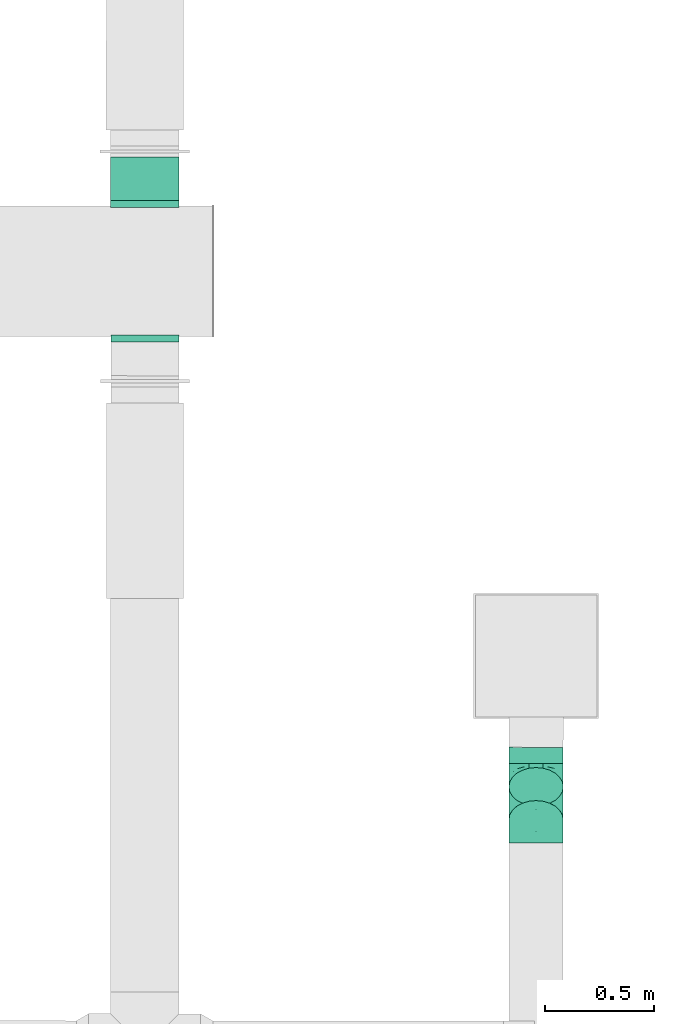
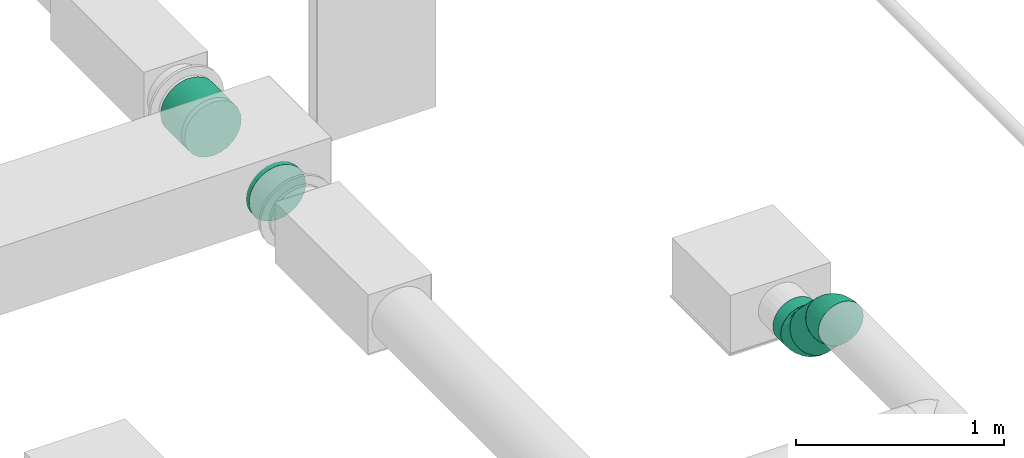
# One storey, part 31 of 63: 4 flow fittings, 3 flow segments.
"""IFC2X3 building model written with IfcOpenShell, lengths in millimetres."""

from ifc_helpers import new_model, entity, si_unit, converted_unit, derived_unit, direction, frame, origin_with_axes, origin_2d_with_axis, place, context, subcontext, project, spatial, hollow_circle, extrude, open_shell, surface_model, source, transform, mapped, type_object, element, save


model = new_model("IFC2X3")

# Units and contexts
model_context = context("Model", 3, precision=0.01, world=frame((0.0, 4.29681676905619e-09, 0.0)), true_north=direction((4.01073788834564e-13, 1.0)))
plan_context = context("Plan", 3, precision=0.01, world=frame((0.0, 4.29681676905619e-09, 0.0)), true_north=direction((4.01073788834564e-13, 1.0)))
body_context = subcontext(model_context, "Body", "Model", "MODEL_VIEW")
ifc_project = project(units=[converted_unit("PLANEANGLEUNIT", "DEGREE", entity("IfcPositiveLengthMeasure", 0.0174532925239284), si_unit("PLANEANGLEUNIT", "RADIAN"), dimensions=[0, 0, 0, 0, 0, 0, 0]), si_unit("AREAUNIT", "SQUARE_METRE"), si_unit("LENGTHUNIT", "METRE", prefix="MILLI"), si_unit("MASSUNIT", "GRAM", prefix="KILO"), si_unit("POWERUNIT", "WATT"), si_unit("PRESSUREUNIT", "PASCAL"), si_unit("FORCEUNIT", "NEWTON", prefix="KILO"), si_unit("ELECTRICVOLTAGEUNIT", "VOLT"), si_unit("ELECTRICCURRENTUNIT", "AMPERE"), si_unit("THERMODYNAMICTEMPERATUREUNIT", "DEGREE_CELSIUS"), si_unit("TIMEUNIT", "SECOND"), si_unit("VOLUMEUNIT", "CUBIC_METRE"), derived_unit("LINEARVELOCITYUNIT", [(si_unit("LENGTHUNIT", "METRE"), 1), (si_unit("TIMEUNIT", "SECOND"), -1)]), derived_unit("VOLUMETRICFLOWRATEUNIT", [(si_unit("VOLUMEUNIT", "CUBIC_METRE"), 1), (si_unit("TIMEUNIT", "SECOND"), -1)]), derived_unit("THERMALTRANSMITTANCEUNIT", [(si_unit("POWERUNIT", "WATT"), 1), (si_unit("THERMODYNAMICTEMPERATUREUNIT", "KELVIN"), -1), (si_unit("AREAUNIT", "SQUARE_METRE"), -1)]), derived_unit("SOUNDPRESSUREUNIT", [(si_unit("PRESSUREUNIT", "PASCAL"), 1)])], contexts=[model_context, plan_context])

# Site, building, storey
site_placement = place(None, frame((0.0, -4.29681676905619e-09, 0.0), z_axis=(0.0, 0.0, 1.0), x_axis=(1.0, 0.0, 0.0)))
site = spatial("IfcSite", under=ifc_project, at=site_placement, CompositionType="ELEMENT")
building_placement = place(site_placement, frame((0.0, 4.29681676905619e-09, 0.0), z_axis=(0.0, 0.0, 1.0), x_axis=(1.0, 0.0, 0.0)))
building = spatial("IfcBuilding", under=site, at=building_placement, Name="mc-building", CompositionType="ELEMENT")
storey_placement = place(building_placement, frame((0.0, 0.0, 210900.0), z_axis=(0.0, 0.0, 1.0), x_axis=(1.0, 0.0, 0.0)))
storey = spatial("IfcBuildingStorey", under=building, at=storey_placement, Name="Nivå F", CompositionType="ELEMENT", Elevation=210900.0)

# Flow fittings
duct_fitting_type_1 = type_object("IfcDuctFittingType", Name="magicirc_elbow_short_001", PredefinedType="BEND")
shared_shape_1 = source(origin_with_axes(), body_context, "Body", "SurfaceModel", [
    surface_model("IfcShellBasedSurfaceModel", [(-62.13204, 0.0, -125.0), (-62.13204, -32.35238, -120.74073), (-62.13204, 32.35238, -120.74073), (-62.13204, 62.5, -108.25318), (-62.13204, 88.38835, -88.38835), (-62.13204, 108.25318, -62.5), (-62.13204, 120.74073, -32.35238), (-62.13204, -62.5, -108.25318), (-62.13204, -88.38835, -88.38835), (-62.13204, -125.0, 0.0), (-62.13204, -108.25318, -62.5), (-62.13204, -120.74073, -32.35238), (-62.13204, 125.0, 0.0), (-62.13204, -120.74073, 32.35238), (-62.13204, 120.74073, 32.35238), (-62.13204, 108.25318, 62.5), (-62.13204, 32.35238, 120.74073), (-62.13204, 62.5, 108.25318), (-62.13204, 88.38835, 88.38835), (-62.13204, -88.38835, 88.38835), (-62.13204, -108.25318, 62.5), (-62.13204, -32.35238, 120.74073), (-62.13204, 0.0, 125.0), (-62.13204, -62.5, 108.25318), (-32.61257, 120.48054, -62.5), (-41.44261, 129.31057, -32.35238), (-44.45436, 132.32233, 0.0), (-41.44261, 129.31057, 32.35238), (-32.61257, 120.48054, 62.5), (-39.32094, -100.77129, 72.52866), (-25.3983, -115.58366, 40.92131), (-9.38975, -99.61313, 67.6303), (-40.71594, 99.20513, 81.38635), (-18.56602, 106.43398, 88.38835), (6.93461, -16.74165, 121.22697), (-29.92798, -19.88945, 122.8817), (-17.69423, -50.99343, 111.83063), (-28.63512, 12.8945, 124.68547), (-43.55871, 45.16564, 117.17454), (-19.1971, 46.34588, 119.14586), (20.11216, -107.05726, 35.36285), (37.22525, -89.79474, 60.1728), (-42.64489, 65.81413, 107.6176), (18.18237, -43.89615, 109.72868), (-48.14682, 116.23669, 52.46898), (11.13029, 29.36587, 124.68547), (-8.4822, -119.71595, 0.0), (17.31186, -111.89141, 0.0), (-27.44697, 77.92943, 103.54984), (-1.13628, 62.73759, 117.17454), (-0.26019, 88.12816, 108.25318), (29.58221, -71.41779, 87.09722), (2.27359, -83.55864, 84.32151), (46.20365, -49.09439, 98.73245), (43.10591, -104.06687, 0.0), (-28.63512, 12.89449, -124.68547), (-29.92797, -19.88945, -122.8817), (11.13029, 29.36586, -124.68547), (-19.1971, 46.34588, -119.14586), (-43.55871, 45.16564, -117.17454), (-35.69649, 74.51237, -103.54983), (-25.3983, -115.58366, -40.92131), (-48.14682, 116.23669, -52.46898), (-39.32094, -100.77129, -72.52866), (-16.38313, 76.69211, -107.6176), (-18.56602, 106.43398, -88.38835), (-0.26019, 88.12816, -108.25318), (-17.69423, -50.99343, -111.83063), (6.93461, -16.74165, -121.22697), (-1.13628, 62.73759, -117.17454), (48.5695, -23.54609, -111.83063), (35.22623, 7.0983, -122.8817), (-9.38975, -99.61313, -67.63031), (2.04406, -67.38589, -98.73245), (29.58221, -71.41778, -87.09723), (43.93399, 43.934, -125.0), (106.43399, -18.56599, 88.38835), (132.32235, -44.45434, 0.0), (21.05739, 66.81058, -120.74073), (88.12817, -0.26017, 108.25318), (66.81057, 21.05741, -120.74073), (106.43399, -18.56599, -88.38835), (88.12817, -0.26017, -108.25318), (129.31058, -41.44258, -32.35238), (120.48055, -32.61255, -62.5), (21.05739, 66.81058, 120.74073), (43.93399, 43.934, 125.0), (129.31058, -41.44258, 32.35238), (120.48055, -32.61255, 62.5), (66.81057, 21.05741, 120.74073), (-31.08246, -121.94188, 0.0), (35.22622, 7.09831, 122.8817), (-25.98217, -78.69805, 94.74512), (-3.43913, -67.17105, 100.02812), (77.07669, -63.79755, 67.6303), (61.9235, -89.5906, 35.66991), (-52.56496, 126.90301, 0.0), (99.68931, -63.77067, 40.92131), (48.5695, -23.54609, 111.83062), (99.06018, -43.45194, 72.52866), (74.0201, -37.27574, 94.74512), (108.20455, -64.2473, 0.0), (90.64979, -78.65413, 0.0), (66.87785, -91.36049, 0.0), (19.56361, -107.13664, -35.66991), (-41.35812, 98.93914, -81.38635), (-25.98217, -78.69805, -94.74512), (61.47949, -89.92235, -35.36285), (18.18239, -43.89616, -109.72867), (57.47721, -60.69254, -84.32152), (74.02009, -37.27574, -94.74513), (77.07669, -63.79755, -67.6303), (37.17223, -89.81669, -60.17279), (99.68931, -63.77066, -40.92131), (99.06018, -43.45194, -72.52866), (49.92893, -45.06527, -100.02812)], [open_shell([[[0, 1, 2]], [[3, 2, 4]], [[1, 5, 2]], [[4, 2, 5]], [[5, 1, 6]], [[7, 8, 1]], [[9, 1, 8]], [[10, 11, 8]], [[9, 8, 11]], [[9, 6, 1]], [[9, 12, 6]], [[12, 13, 14]], [[15, 14, 16]], [[16, 17, 18]], [[15, 16, 18]], [[16, 14, 19]], [[20, 19, 13]], [[19, 14, 13]], [[21, 22, 23]], [[19, 23, 22]], [[19, 22, 16]], [[9, 13, 12]], [[24, 25, 26]], [[26, 27, 28]], [[29, 30, 31]], [[32, 33, 28]], [[30, 20, 13]], [[34, 35, 36]], [[21, 35, 22]], [[21, 23, 36]], [[16, 22, 37]], [[38, 37, 39]], [[31, 40, 41]], [[42, 17, 38]], [[38, 17, 16]], [[43, 34, 36]], [[35, 37, 22]], [[14, 15, 44]], [[42, 32, 18]], [[29, 19, 20]], [[40, 31, 30]], [[37, 45, 39]], [[45, 37, 34]], [[40, 46, 47]], [[42, 18, 17]], [[33, 32, 48]], [[27, 44, 28]], [[48, 39, 49]], [[33, 48, 50]], [[44, 32, 28]], [[18, 32, 15]], [[36, 35, 21]], [[37, 35, 34]], [[41, 51, 52]], [[14, 44, 27]], [[32, 44, 15]], [[37, 38, 16]], [[42, 39, 48]], [[39, 42, 38]], [[42, 48, 32]], [[48, 49, 50]], [[45, 49, 39]], [[30, 29, 20]], [[53, 43, 51]], [[46, 40, 30]], [[47, 54, 40]], [[41, 52, 31]], [[0, 2, 55]], [[56, 1, 0]], [[57, 55, 58]], [[59, 60, 58]], [[10, 61, 11]], [[3, 4, 60]], [[62, 6, 25]], [[61, 10, 63]], [[64, 65, 66]], [[1, 56, 67]], [[8, 63, 10]], [[7, 1, 67]], [[56, 55, 68]], [[25, 24, 62]], [[69, 64, 66]], [[2, 3, 59]], [[59, 55, 2]], [[69, 57, 58]], [[70, 68, 71]], [[55, 57, 68]], [[55, 56, 0]], [[67, 56, 68]], [[57, 71, 68]], [[6, 62, 5]], [[60, 59, 3]], [[55, 59, 58]], [[64, 58, 60]], [[58, 64, 69]], [[61, 63, 72]], [[72, 73, 74]], [[75, 76, 77]], [[66, 26, 78]], [[78, 79, 75]], [[24, 66, 65]], [[66, 24, 26]], [[80, 81, 82]], [[80, 75, 81]], [[81, 83, 84]], [[83, 81, 77]], [[75, 77, 81]], [[26, 28, 50]], [[50, 85, 26]], [[50, 28, 33]], [[26, 85, 86]], [[87, 76, 88]], [[77, 76, 87]], [[79, 86, 89]], [[76, 75, 79]], [[86, 79, 26]], [[78, 26, 79]], [[90, 46, 30]], [[91, 45, 34]], [[23, 92, 36]], [[52, 93, 92]], [[94, 41, 95]], [[23, 19, 92]], [[96, 14, 27]], [[40, 95, 41]], [[96, 12, 14]], [[94, 95, 97]], [[40, 54, 95]], [[98, 89, 91]], [[99, 88, 76]], [[89, 98, 79]], [[88, 99, 97]], [[88, 97, 87]], [[98, 100, 79]], [[53, 94, 100]], [[97, 101, 87]], [[85, 50, 49]], [[41, 94, 51]], [[30, 13, 90]], [[26, 96, 27]], [[95, 102, 97]], [[95, 54, 103]], [[86, 91, 89]], [[86, 85, 45]], [[45, 85, 49]], [[34, 43, 98]], [[29, 92, 19]], [[79, 100, 76]], [[52, 92, 31]], [[95, 103, 102]], [[53, 100, 98]], [[99, 100, 94]], [[45, 91, 86]], [[98, 91, 34]], [[13, 9, 90]], [[101, 97, 102]], [[101, 77, 87]], [[92, 29, 31]], [[100, 99, 76]], [[97, 99, 94]], [[93, 36, 92]], [[51, 43, 93]], [[51, 93, 52]], [[43, 36, 93]], [[43, 53, 98]], [[94, 53, 51]], [[104, 46, 61]], [[78, 75, 57]], [[4, 105, 60]], [[73, 72, 106]], [[80, 82, 70]], [[61, 90, 11]], [[83, 77, 101]], [[106, 7, 67]], [[107, 102, 103]], [[104, 54, 47]], [[72, 104, 61]], [[106, 8, 7]], [[68, 108, 67]], [[6, 12, 96]], [[109, 110, 111]], [[96, 26, 25]], [[112, 72, 74]], [[113, 83, 101]], [[82, 81, 110]], [[113, 84, 83]], [[64, 105, 65]], [[4, 5, 105]], [[114, 81, 84]], [[110, 109, 115]], [[70, 82, 110]], [[66, 78, 69]], [[75, 80, 71]], [[111, 114, 113]], [[108, 68, 70]], [[113, 101, 102]], [[107, 104, 112]], [[107, 111, 113]], [[111, 107, 112]], [[71, 57, 75]], [[104, 47, 46]], [[96, 25, 6]], [[114, 110, 81]], [[107, 54, 104]], [[73, 106, 67]], [[63, 106, 72]], [[62, 105, 5]], [[65, 105, 24]], [[70, 71, 80]], [[90, 61, 46]], [[90, 9, 11]], [[72, 112, 104]], [[112, 74, 109]], [[105, 62, 24]], [[57, 69, 78]], [[64, 60, 105]], [[113, 114, 84]], [[110, 114, 111]], [[106, 63, 8]], [[115, 70, 110]], [[73, 108, 74]], [[102, 107, 113]], [[103, 54, 107]], [[112, 109, 111]], [[74, 108, 115]], [[74, 115, 109]], [[108, 70, 115]], [[108, 73, 67]]])]),
])
flow_fitting_1_placement = place(storey_placement, frame((534105.55187, 453840.20991, 3960.01264), z_axis=(-0.999999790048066, 0.000647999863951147, 0.0), x_axis=(-0.000647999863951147, -0.999999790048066, 0.0)))
element("IfcFlowFitting", 1, at=flow_fitting_1_placement, inside=storey, type_object=duct_fitting_type_1, Name="magicirc_elbow_short_001", context=body_context, shape_type="MappedRepresentation", body=[
    mapped(shared_shape_1, transform((0.0, 0.0, 0.0), scale=1.0)),
])
shared_shape_2 = source(origin_with_axes(), body_context, "Body", "SurfaceModel", [
    surface_model("IfcShellBasedSurfaceModel", [(-62.13204, 0.0, -125.0), (-62.13204, -32.35238, -120.74073), (-62.13204, 32.35238, -120.74073), (-62.13204, 62.5, -108.25318), (-62.13204, 88.38835, -88.38835), (-62.13204, 108.25318, -62.5), (-62.13204, 120.74073, -32.35238), (-62.13204, -62.5, -108.25318), (-62.13204, -88.38835, -88.38835), (-62.13204, -125.0, 0.0), (-62.13204, -108.25318, -62.5), (-62.13204, -120.74073, -32.35238), (-62.13204, 125.0, 0.0), (-62.13204, -120.74073, 32.35238), (-62.13204, 120.74073, 32.35238), (-62.13204, 108.25318, 62.5), (-62.13204, 32.35238, 120.74073), (-62.13204, 62.5, 108.25318), (-62.13204, 88.38835, 88.38835), (-62.13204, -88.38835, 88.38835), (-62.13204, -108.25318, 62.5), (-62.13204, -32.35238, 120.74073), (-62.13204, 0.0, 125.0), (-62.13204, -62.5, 108.25318), (-32.61257, 120.48054, -62.5), (-41.44261, 129.31057, -32.35238), (-44.45436, 132.32233, 0.0), (-41.44261, 129.31057, 32.35238), (-32.61257, 120.48054, 62.5), (-39.32094, -100.77129, 72.52866), (-25.3983, -115.58366, 40.92131), (-9.38975, -99.61313, 67.6303), (-40.71594, 99.20513, 81.38635), (-18.56602, 106.43398, 88.38835), (6.93461, -16.74165, 121.22697), (-29.92798, -19.88945, 122.8817), (-17.69423, -50.99343, 111.83063), (-28.63512, 12.8945, 124.68547), (-43.55871, 45.16564, 117.17454), (-19.1971, 46.34588, 119.14586), (20.11216, -107.05726, 35.36285), (37.22525, -89.79474, 60.1728), (-42.64489, 65.81413, 107.6176), (18.18237, -43.89615, 109.72868), (-48.14682, 116.23669, 52.46898), (11.13029, 29.36587, 124.68547), (-8.4822, -119.71595, 0.0), (17.31186, -111.89141, 0.0), (-27.44697, 77.92943, 103.54984), (-1.13628, 62.73759, 117.17454), (-0.26019, 88.12816, 108.25318), (29.58221, -71.41779, 87.09722), (2.27359, -83.55864, 84.32151), (46.20365, -49.09439, 98.73245), (43.10591, -104.06687, 0.0), (-28.63512, 12.89449, -124.68547), (-29.92797, -19.88945, -122.8817), (11.13029, 29.36586, -124.68547), (-19.1971, 46.34588, -119.14586), (-43.55871, 45.16564, -117.17454), (-35.69649, 74.51237, -103.54983), (-25.3983, -115.58366, -40.92131), (-48.14682, 116.23669, -52.46898), (-39.32094, -100.77129, -72.52866), (-16.38313, 76.69211, -107.6176), (-18.56602, 106.43398, -88.38835), (-0.26019, 88.12816, -108.25318), (-17.69423, -50.99343, -111.83063), (6.93461, -16.74165, -121.22697), (-1.13628, 62.73759, -117.17454), (48.5695, -23.54609, -111.83063), (35.22623, 7.0983, -122.8817), (-9.38975, -99.61313, -67.63031), (2.04406, -67.38589, -98.73245), (29.58221, -71.41778, -87.09723), (43.93399, 43.934, -125.0), (106.43399, -18.56599, 88.38835), (132.32235, -44.45434, 0.0), (21.05739, 66.81058, -120.74073), (88.12817, -0.26017, 108.25318), (66.81057, 21.05741, -120.74073), (106.43399, -18.56599, -88.38835), (88.12817, -0.26017, -108.25318), (129.31058, -41.44258, -32.35238), (120.48055, -32.61255, -62.5), (21.05739, 66.81058, 120.74073), (43.93399, 43.934, 125.0), (129.31058, -41.44258, 32.35238), (120.48055, -32.61255, 62.5), (66.81057, 21.05741, 120.74073), (-31.08246, -121.94188, 0.0), (35.22622, 7.09831, 122.8817), (77.07669, -63.79755, 67.6303), (61.9235, -89.5906, 35.66991), (-52.56496, 126.90301, 0.0), (99.68931, -63.77067, 40.92131), (48.5695, -23.54609, 111.83062), (99.06018, -43.45194, 72.52866), (74.0201, -37.27574, 94.74512), (108.20455, -64.2473, 0.0), (90.64979, -78.65413, 0.0), (66.87785, -91.36049, 0.0), (-3.43913, -67.17105, 100.02812), (19.56361, -107.13664, -35.66991), (-41.35812, 98.93914, -81.38635), (-25.98217, -78.69805, -94.74512), (61.47949, -89.92235, -35.36285), (18.18239, -43.89616, -109.72867), (57.47721, -60.69254, -84.32152), (74.02009, -37.27574, -94.74513), (77.07669, -63.79755, -67.6303), (37.17223, -89.81669, -60.17279), (99.68931, -63.77066, -40.92131), (99.06018, -43.45194, -72.52866), (49.92893, -45.06527, -100.02812), (-25.98217, -78.69805, 94.74512)], [open_shell([[[0, 1, 2]], [[3, 2, 4]], [[1, 5, 2]], [[4, 2, 5]], [[5, 1, 6]], [[7, 8, 1]], [[9, 1, 8]], [[10, 11, 8]], [[9, 8, 11]], [[9, 6, 1]], [[9, 12, 6]], [[12, 13, 14]], [[15, 14, 16]], [[16, 17, 18]], [[15, 16, 18]], [[16, 14, 19]], [[20, 19, 13]], [[19, 14, 13]], [[21, 22, 23]], [[19, 23, 22]], [[19, 22, 16]], [[9, 13, 12]], [[24, 25, 26]], [[26, 27, 28]], [[29, 30, 31]], [[32, 33, 28]], [[30, 20, 13]], [[34, 35, 36]], [[21, 35, 22]], [[21, 23, 36]], [[16, 22, 37]], [[38, 37, 39]], [[31, 40, 41]], [[42, 17, 38]], [[38, 17, 16]], [[43, 34, 36]], [[35, 37, 22]], [[14, 15, 44]], [[42, 32, 18]], [[29, 19, 20]], [[40, 31, 30]], [[37, 45, 39]], [[45, 37, 34]], [[40, 46, 47]], [[42, 18, 17]], [[33, 32, 48]], [[27, 44, 28]], [[48, 39, 49]], [[33, 48, 50]], [[44, 32, 28]], [[18, 32, 15]], [[36, 35, 21]], [[37, 35, 34]], [[41, 51, 52]], [[14, 44, 27]], [[32, 44, 15]], [[37, 38, 16]], [[42, 39, 48]], [[39, 42, 38]], [[42, 48, 32]], [[48, 49, 50]], [[45, 49, 39]], [[30, 29, 20]], [[53, 43, 51]], [[46, 40, 30]], [[47, 54, 40]], [[41, 52, 31]], [[0, 2, 55]], [[56, 1, 0]], [[57, 55, 58]], [[59, 60, 58]], [[10, 61, 11]], [[3, 4, 60]], [[62, 6, 25]], [[61, 10, 63]], [[64, 65, 66]], [[1, 56, 67]], [[8, 63, 10]], [[7, 1, 67]], [[56, 55, 68]], [[25, 24, 62]], [[69, 64, 66]], [[2, 3, 59]], [[59, 55, 2]], [[69, 57, 58]], [[70, 68, 71]], [[55, 57, 68]], [[55, 56, 0]], [[67, 56, 68]], [[57, 71, 68]], [[6, 62, 5]], [[60, 59, 3]], [[55, 59, 58]], [[64, 58, 60]], [[58, 64, 69]], [[61, 63, 72]], [[72, 73, 74]], [[75, 76, 77]], [[66, 26, 78]], [[78, 79, 75]], [[24, 66, 65]], [[66, 24, 26]], [[80, 81, 82]], [[80, 75, 81]], [[81, 83, 84]], [[83, 81, 77]], [[75, 77, 81]], [[26, 28, 50]], [[50, 85, 26]], [[50, 28, 33]], [[26, 85, 86]], [[87, 76, 88]], [[77, 76, 87]], [[79, 86, 89]], [[76, 75, 79]], [[86, 79, 26]], [[78, 26, 79]], [[90, 46, 30]], [[91, 45, 34]], [[92, 41, 93]], [[94, 14, 27]], [[40, 93, 41]], [[94, 12, 14]], [[92, 93, 95]], [[40, 54, 93]], [[96, 89, 91]], [[97, 88, 76]], [[89, 96, 79]], [[88, 97, 95]], [[88, 95, 87]], [[96, 98, 79]], [[53, 92, 98]], [[95, 99, 87]], [[85, 50, 49]], [[41, 92, 51]], [[30, 13, 90]], [[26, 94, 27]], [[93, 100, 95]], [[93, 54, 101]], [[86, 91, 89]], [[86, 85, 45]], [[45, 85, 49]], [[34, 43, 96]], [[79, 98, 76]], [[93, 101, 100]], [[53, 98, 96]], [[97, 98, 92]], [[45, 91, 86]], [[96, 91, 34]], [[13, 9, 90]], [[99, 95, 100]], [[99, 77, 87]], [[98, 97, 76]], [[95, 97, 92]], [[51, 43, 102]], [[51, 102, 52]], [[43, 36, 102]], [[43, 53, 96]], [[92, 53, 51]], [[103, 46, 61]], [[78, 75, 57]], [[4, 104, 60]], [[73, 72, 105]], [[80, 82, 70]], [[61, 90, 11]], [[83, 77, 99]], [[105, 7, 67]], [[106, 100, 101]], [[103, 54, 47]], [[72, 103, 61]], [[105, 8, 7]], [[68, 107, 67]], [[6, 12, 94]], [[108, 109, 110]], [[94, 26, 25]], [[111, 72, 74]], [[112, 83, 99]], [[82, 81, 109]], [[112, 84, 83]], [[64, 104, 65]], [[4, 5, 104]], [[113, 81, 84]], [[109, 108, 114]], [[70, 82, 109]], [[66, 78, 69]], [[75, 80, 71]], [[110, 113, 112]], [[107, 68, 70]], [[112, 99, 100]], [[106, 103, 111]], [[106, 110, 112]], [[110, 106, 111]], [[71, 57, 75]], [[103, 47, 46]], [[94, 25, 6]], [[113, 109, 81]], [[106, 54, 103]], [[73, 105, 67]], [[63, 105, 72]], [[62, 104, 5]], [[65, 104, 24]], [[70, 71, 80]], [[90, 61, 46]], [[90, 9, 11]], [[72, 111, 103]], [[111, 74, 108]], [[104, 62, 24]], [[57, 69, 78]], [[64, 60, 104]], [[112, 113, 84]], [[109, 113, 110]], [[105, 63, 8]], [[114, 70, 109]], [[73, 107, 74]], [[100, 106, 112]], [[101, 54, 106]], [[111, 108, 110]], [[74, 107, 114]], [[74, 114, 108]], [[107, 70, 114]], [[107, 73, 67]], [[23, 115, 36]], [[52, 102, 115]], [[23, 19, 115]], [[29, 115, 19]], [[52, 115, 31]], [[115, 29, 31]], [[102, 36, 115]]])]),
])
flow_fitting_2_placement = place(storey_placement, frame((534105.39642, 453600.22266, 4200.0), z_axis=(0.999999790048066, -0.000647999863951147, -3.79470760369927e-19), x_axis=(-0.000458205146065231, -0.707106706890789, 0.707106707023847)))
element("IfcFlowFitting", 2, at=flow_fitting_2_placement, inside=storey, type_object=duct_fitting_type_1, Name="magicirc_elbow_short_001", context=body_context, shape_type="MappedRepresentation", body=[
    mapped(shared_shape_2, transform((0.0, 0.0, 0.0), scale=1.0)),
])
duct_fitting_type_2 = type_object("IfcDuctFittingType", Name="magicirc_tapoutlet_001", PredefinedType="CONNECTOR")
shared_shape_3 = source(origin_with_axes(), body_context, "Body", "SurfaceModel", [
    surface_model("IfcShellBasedSurfaceModel", [(25.0, 40.764, -152.13332), (25.0, 157.5, 0.0), (25.0, 0.0, -157.5), (25.0, 78.75, -136.39901), (25.0, 136.39901, -78.75), (25.0, 111.36932, -111.36932), (25.0, -111.36932, -111.36932), (25.0, -152.13332, 40.764), (25.0, -78.75, -136.39901), (25.0, -40.764, -152.13332), (25.0, -136.39901, -78.75), (25.0, -152.13332, -40.764), (25.0, -157.5, 0.0), (25.0, 152.13332, -40.764), (25.0, 152.13332, 40.764), (25.0, 111.36932, 111.36932), (25.0, 136.39901, 78.75), (25.0, 78.75, 136.39901), (25.0, 40.764, 152.13332), (25.0, -111.36932, 111.36932), (25.0, -136.39901, 78.75), (25.0, -78.75, 136.39901), (25.0, -40.764, 152.13332), (25.0, 0.0, 157.5), (0.0, 0.0, 157.5), (0.0, 40.764, 152.13332), (0.0, 78.75, 136.39901), (0.0, 111.36932, 111.36932), (0.0, 136.39901, 78.75), (0.0, 152.13332, 40.764), (0.0, 157.5, 0.0), (0.0, 152.13332, -40.764), (0.0, 136.39901, -78.75), (0.0, 111.36932, -111.36932), (0.0, 0.0, -157.5), (0.0, 78.75, -136.39901), (0.0, 40.764, -152.13332), (0.0, -40.764, -152.13332), (0.0, -78.75, -136.39901), (0.0, -111.36932, -111.36932), (0.0, -136.39901, -78.75), (0.0, -152.13332, -40.764), (0.0, -157.5, 0.0), (0.0, -152.13332, 40.764), (0.0, -136.39901, 78.75), (0.0, -111.36932, 111.36932), (0.0, -78.75, 136.39901), (0.0, -40.764, 152.13332), (-6.096, 0.0, -157.5), (-6.096, -40.764, -152.13332), (-6.096, 40.764, -152.13332), (-6.096, 152.13332, 40.764), (-6.096, 78.75, -136.39901), (-6.096, 111.36932, -111.36932), (-6.096, 136.39901, -78.75), (-6.096, -157.5, 0.0), (-6.096, -152.13332, 40.764), (-6.096, -111.36932, -111.36932), (-6.096, -78.75, -136.39901), (-6.096, -152.13332, -40.764), (-6.096, -136.39901, -78.75), (-6.096, 152.13332, -40.764), (-6.096, 111.36932, 111.36932), (-6.096, 136.39901, 78.75), (-6.096, 40.764, 152.13332), (-6.096, 78.75, 136.39901), (-6.096, 0.0, 157.5), (-6.096, -111.36932, 111.36932), (-6.096, -136.39901, 78.75), (-6.096, -40.764, 152.13332), (-6.096, -78.75, 136.39901), (-6.096, 157.5, 0.0)], [open_shell([[[0, 1, 2]], [[3, 1, 0]], [[4, 1, 5]], [[5, 1, 3]], [[6, 2, 7]], [[2, 6, 8]], [[8, 9, 2]], [[10, 7, 11]], [[7, 10, 6]], [[11, 7, 12]], [[13, 1, 4]], [[2, 14, 15]], [[15, 14, 16]], [[17, 18, 2]], [[2, 15, 17]], [[2, 18, 19]], [[20, 7, 2]], [[19, 20, 2]], [[18, 21, 19]], [[22, 21, 18]], [[18, 23, 22]], [[1, 14, 2]], [[24, 23, 18]], [[25, 18, 17]], [[24, 18, 25]], [[26, 15, 27]], [[26, 25, 17]], [[15, 26, 17]], [[28, 16, 14]], [[29, 14, 1]], [[27, 16, 28]], [[29, 28, 14]], [[30, 29, 1]], [[16, 27, 15]], [[30, 1, 13]], [[31, 13, 4]], [[30, 13, 31]], [[32, 5, 33]], [[32, 31, 4]], [[5, 32, 4]], [[0, 2, 34]], [[3, 0, 35]], [[35, 33, 3]], [[36, 35, 0]], [[0, 34, 36]], [[3, 33, 5]], [[34, 2, 9]], [[37, 9, 8]], [[34, 9, 37]], [[38, 6, 39]], [[38, 37, 8]], [[6, 38, 8]], [[40, 10, 11]], [[41, 11, 12]], [[39, 10, 40]], [[41, 40, 11]], [[42, 41, 12]], [[10, 39, 6]], [[42, 12, 7]], [[43, 7, 20]], [[42, 7, 43]], [[44, 19, 45]], [[44, 43, 20]], [[19, 44, 20]], [[46, 21, 22]], [[47, 22, 23]], [[45, 21, 46]], [[47, 46, 22]], [[24, 47, 23]], [[21, 45, 19]], [[0, 14, 2]], [[14, 15, 2]], [[0, 1, 14]], [[48, 49, 50]], [[50, 51, 52]], [[53, 51, 54]], [[52, 51, 53]], [[50, 55, 56]], [[57, 55, 58]], [[50, 49, 58]], [[59, 55, 60]], [[57, 60, 55]], [[58, 55, 50]], [[61, 54, 51]], [[51, 50, 62]], [[63, 51, 62]], [[50, 64, 65]], [[65, 62, 50]], [[66, 64, 50]], [[67, 66, 68]], [[50, 56, 68]], [[69, 66, 70]], [[67, 70, 66]], [[50, 68, 66]], [[71, 61, 51]], [[66, 24, 25]], [[64, 25, 26]], [[66, 25, 64]], [[65, 27, 62]], [[65, 64, 26]], [[27, 65, 26]], [[63, 28, 29]], [[51, 29, 30]], [[62, 28, 63]], [[51, 63, 29]], [[71, 51, 30]], [[28, 62, 27]], [[71, 30, 31]], [[61, 31, 32]], [[71, 31, 61]], [[54, 33, 53]], [[54, 61, 32]], [[33, 54, 32]], [[36, 34, 48]], [[35, 36, 52]], [[52, 53, 35]], [[50, 52, 36]], [[36, 48, 50]], [[35, 53, 33]], [[48, 34, 37]], [[49, 37, 38]], [[48, 37, 49]], [[58, 39, 57]], [[58, 49, 38]], [[39, 58, 38]], [[60, 40, 41]], [[59, 41, 42]], [[57, 40, 60]], [[59, 60, 41]], [[55, 59, 42]], [[40, 57, 39]], [[55, 42, 43]], [[56, 43, 44]], [[55, 43, 56]], [[68, 45, 67]], [[68, 56, 44]], [[45, 68, 44]], [[70, 46, 47]], [[69, 47, 24]], [[67, 46, 70]], [[69, 70, 47]], [[66, 69, 24]], [[46, 67, 45]]])]),
])
flow_fitting_3_placement = place(storey_placement, frame((532305.34523, 455869.0, 4200.0), z_axis=(0.0, 0.0, -1.0), x_axis=(0.0, -1.0, 0.0)))
element("IfcFlowFitting", 3, at=flow_fitting_3_placement, inside=storey, type_object=duct_fitting_type_2, Name="magicirc_tapoutlet_001", context=body_context, shape_type="MappedRepresentation", body=[
    mapped(shared_shape_3, transform((0.0, 0.0, 0.0), scale=1.0)),
])
shared_shape_4 = source(origin_with_axes(), body_context, "Body", "SurfaceModel", [
    surface_model("IfcShellBasedSurfaceModel", [(25.0, 111.36932, -111.36932), (25.0, 157.5, 0.0), (25.0, 78.75, -136.39901), (25.0, 152.13332, -40.764), (25.0, 136.39901, -78.75), (25.0, 40.764, -152.13332), (25.0, 0.0, -157.5), (0.0, 0.0, -157.5), (25.0, -40.764, -152.13332), (25.0, -152.13332, 40.764), (25.0, -78.75, -136.39901), (25.0, -111.36932, -111.36932), (25.0, -136.39901, -78.75), (25.0, 152.13332, 40.764), (25.0, -152.13332, -40.764), (25.0, -111.36932, 111.36932), (25.0, -136.39901, 78.75), (25.0, -40.764, 152.13332), (25.0, -78.75, 136.39901), (25.0, 0.0, 157.5), (25.0, 111.36932, 111.36932), (25.0, 136.39901, 78.75), (25.0, 40.764, 152.13332), (25.0, 78.75, 136.39901), (25.0, -157.5, 0.0), (0.0, 0.0, 157.5), (0.0, -40.764, 152.13332), (0.0, -111.36932, 111.36932), (0.0, -78.75, 136.39901), (0.0, -136.39901, 78.75), (0.0, -152.13332, 40.764), (0.0, -157.5, 0.0), (0.0, -152.13332, -40.764), (0.0, -111.36932, -111.36932), (0.0, -136.39901, -78.75), (0.0, -78.75, -136.39901), (0.0, -40.764, -152.13332), (0.0, 40.764, -152.13332), (0.0, 111.36932, -111.36932), (0.0, 78.75, -136.39901), (0.0, 136.39901, -78.75), (0.0, 152.13332, -40.764), (0.0, 157.5, 0.0), (0.0, 152.13332, 40.764), (0.0, 111.36932, 111.36932), (0.0, 136.39901, 78.75), (0.0, 78.75, 136.39901), (0.0, 40.764, 152.13332), (-6.096, -111.36932, -111.36932), (-6.096, -157.5, 0.0), (-6.096, -78.75, -136.39901), (-6.096, -152.13332, -40.764), (-6.096, -136.39901, -78.75), (-6.096, 0.0, -157.5), (-6.096, -40.764, -152.13332), (-6.096, 111.36932, -111.36932), (-6.096, 152.13332, 40.764), (-6.096, 78.75, -136.39901), (-6.096, 40.764, -152.13332), (-6.096, 136.39901, -78.75), (-6.096, 152.13332, -40.764), (-6.096, 157.5, 0.0), (-6.096, -152.13332, 40.764), (-6.096, -111.36932, 111.36932), (-6.096, -136.39901, 78.75), (-6.096, -78.75, 136.39901), (-6.096, -40.764, 152.13332), (-6.096, 111.36932, 111.36932), (-6.096, 136.39901, 78.75), (-6.096, 78.75, 136.39901), (-6.096, 40.764, 152.13332), (-6.096, 0.0, 157.5)], [open_shell([[[0, 1, 2]], [[3, 1, 4]], [[5, 6, 7]], [[7, 6, 8]], [[6, 5, 8]], [[8, 9, 10]], [[11, 9, 12]], [[10, 9, 11]], [[8, 1, 13]], [[8, 5, 2]], [[0, 4, 1]], [[2, 1, 8]], [[14, 12, 9]], [[9, 8, 15]], [[16, 9, 15]], [[8, 17, 18]], [[18, 15, 8]], [[19, 17, 8]], [[20, 19, 21]], [[8, 13, 21]], [[22, 19, 23]], [[20, 23, 19]], [[8, 21, 19]], [[24, 14, 9]], [[17, 19, 25]], [[18, 17, 26]], [[26, 17, 25]], [[27, 15, 28]], [[18, 26, 28]], [[18, 28, 15]], [[9, 16, 29]], [[24, 9, 30]], [[29, 16, 27]], [[9, 29, 30]], [[24, 30, 31]], [[15, 27, 16]], [[14, 24, 31]], [[12, 14, 32]], [[32, 14, 31]], [[33, 11, 34]], [[12, 32, 34]], [[12, 34, 11]], [[35, 8, 10]], [[10, 33, 35]], [[8, 35, 36]], [[36, 7, 8]], [[11, 33, 10]], [[2, 5, 37]], [[37, 5, 7]], [[38, 0, 39]], [[2, 37, 39]], [[2, 39, 0]], [[3, 4, 40]], [[1, 3, 41]], [[40, 4, 38]], [[3, 40, 41]], [[1, 41, 42]], [[0, 38, 4]], [[13, 1, 42]], [[21, 13, 43]], [[43, 13, 42]], [[44, 20, 45]], [[21, 43, 45]], [[21, 45, 20]], [[22, 23, 46]], [[19, 22, 47]], [[46, 23, 44]], [[22, 46, 47]], [[19, 47, 25]], [[20, 44, 23]], [[8, 15, 9]], [[15, 8, 18]], [[8, 19, 17]], [[48, 49, 50]], [[51, 49, 52]], [[37, 7, 53]], [[53, 7, 36]], [[54, 49, 53]], [[50, 49, 54]], [[52, 49, 48]], [[55, 53, 56]], [[53, 55, 57]], [[57, 58, 53]], [[59, 56, 60]], [[56, 59, 55]], [[60, 56, 61]], [[53, 62, 63]], [[63, 62, 64]], [[65, 66, 53]], [[53, 63, 65]], [[53, 66, 67]], [[68, 56, 53]], [[67, 68, 53]], [[66, 69, 67]], [[70, 69, 66]], [[66, 71, 70]], [[49, 62, 53]], [[26, 25, 71]], [[28, 26, 66]], [[66, 26, 71]], [[63, 27, 65]], [[28, 66, 65]], [[28, 65, 27]], [[30, 29, 64]], [[31, 30, 62]], [[64, 29, 63]], [[30, 64, 62]], [[31, 62, 49]], [[27, 63, 29]], [[32, 31, 49]], [[34, 32, 51]], [[51, 32, 49]], [[48, 33, 52]], [[34, 51, 52]], [[34, 52, 33]], [[50, 36, 35]], [[35, 48, 50]], [[36, 50, 54]], [[54, 53, 36]], [[33, 48, 35]], [[39, 37, 58]], [[58, 37, 53]], [[55, 38, 57]], [[39, 58, 57]], [[39, 57, 38]], [[41, 40, 59]], [[42, 41, 60]], [[59, 40, 55]], [[41, 59, 60]], [[42, 60, 61]], [[38, 55, 40]], [[43, 42, 61]], [[45, 43, 56]], [[56, 43, 61]], [[67, 44, 68]], [[45, 56, 68]], [[45, 68, 44]], [[47, 46, 69]], [[25, 47, 70]], [[69, 46, 67]], [[47, 69, 70]], [[25, 70, 71]], [[44, 67, 46]], [[62, 63, 53]], [[53, 49, 62]]])]),
])
flow_fitting_4_placement = place(storey_placement, frame((532304.14434, 456469.0, 4200.0), z_axis=(0.0, 0.0, -1.0), x_axis=(0.0, 1.0, 0.0)))
element("IfcFlowFitting", 4, at=flow_fitting_4_placement, inside=storey, type_object=duct_fitting_type_2, Name="magicirc_tapoutlet_001", context=body_context, shape_type="MappedRepresentation", body=[
    mapped(shared_shape_4, transform((0.0, 0.0, 0.0), scale=1.0)),
])

# Flow segments
duct_segment_type = type_object("IfcDuctSegmentType", Name="KK002T - Spiro kanaler, Forsinket stål, korte bend", PredefinedType="RIGIDSEGMENT")
shared_shape_5 = source(origin_with_axes(), body_context, "Body", "SweptSolid", [
    extrude(hollow_circle(Radius=125.0, WallThickness=2.0, at=origin_2d_with_axis()), frame((0.0, 0.0, 0.0), z_axis=(1.0, 0.0, 0.0), x_axis=(0.0, 1.0, 0.0)), (0.0, 0.0, 1.0), 75.7),
])
flow_segment_1_placement = place(storey_placement, frame((534105.64117, 453978.06192, 3960.01264), z_axis=(0.0, 0.0, 1.0), x_axis=(-0.000647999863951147, -0.999999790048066, 0.0)))
element("IfcFlowSegment", 5, at=flow_segment_1_placement, inside=storey, type_object=duct_segment_type, Name="KK002T - Spiro kanaler, Forsinket stål, korte bend", context=body_context, shape_type="MappedRepresentation", body=[
    mapped(shared_shape_5, transform((0.0, 0.0, 0.0), scale=1.0)),
])
shared_shape_6 = source(origin_with_axes(), body_context, "Body", "SweptSolid", [
    extrude(hollow_circle(Radius=125.0, WallThickness=2.0, at=origin_2d_with_axis()), frame((0.0, 0.0, 0.0), z_axis=(1.0, 0.0, 0.0), x_axis=(0.0, 1.0, 0.0)), (0.0, 0.0, 1.0), 215.1),
])
flow_segment_2_placement = place(storey_placement, frame((534105.52342, 453796.27593, 4003.94662999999), z_axis=(0.00045799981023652, 0.707106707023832, 0.707106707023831), x_axis=(-0.000457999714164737, -0.707106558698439, 0.707106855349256)))
element("IfcFlowSegment", 6, at=flow_segment_2_placement, inside=storey, type_object=duct_segment_type, Name="KK002T - Spiro kanaler, Forsinket stål, korte bend", context=body_context, shape_type="MappedRepresentation", body=[
    mapped(shared_shape_6, transform((0.0, 0.0, 0.0), scale=1.0)),
])
shared_shape_7 = source(origin_with_axes(), body_context, "Body", "SweptSolid", [
    extrude(hollow_circle(Radius=157.5, WallThickness=2.0, at=origin_2d_with_axis()), frame((0.0, 0.0, 0.0), z_axis=(1.0, 0.0, 0.0), x_axis=(0.0, 1.0, 0.0)), (0.0, 0.0, 1.0), 200.7),
])
flow_segment_3_placement = place(storey_placement, frame((532304.14434, 456694.65341, 4200.0), z_axis=(0.0, 0.0, 1.0), x_axis=(0.0, -1.0, 0.0)))
element("IfcFlowSegment", 7, at=flow_segment_3_placement, inside=storey, type_object=duct_segment_type, Name="KK002T - Spiro kanaler, Forsinket stål, korte bend", context=body_context, shape_type="MappedRepresentation", body=[
    mapped(shared_shape_7, transform((0.0, 0.0, 0.0), scale=1.0)),
])

save(model, "model.ifc")
